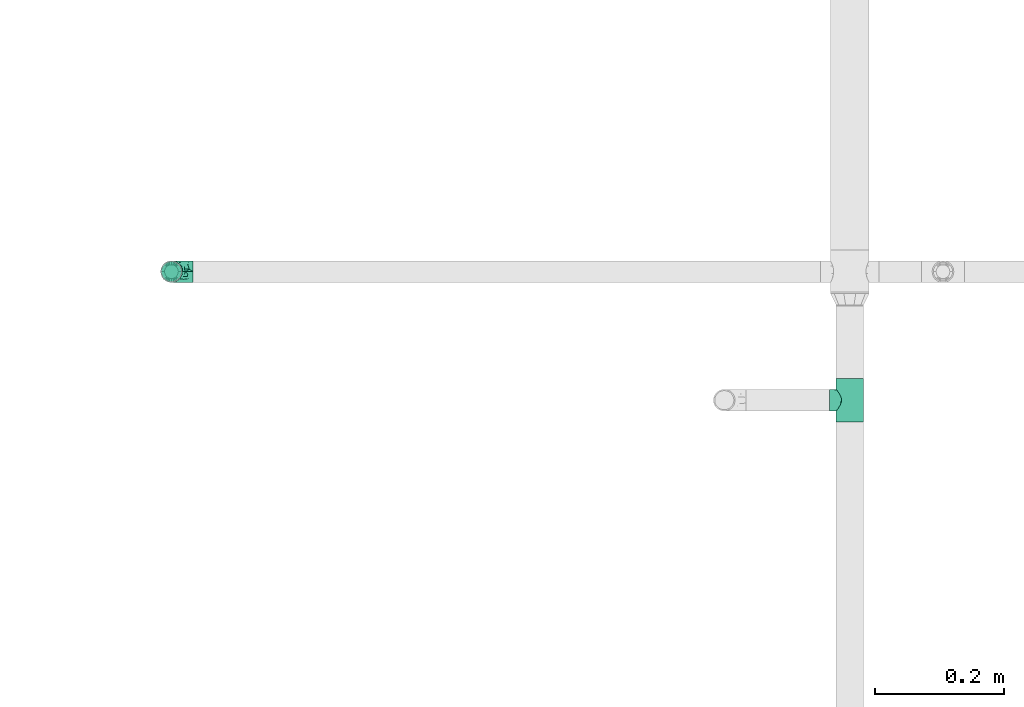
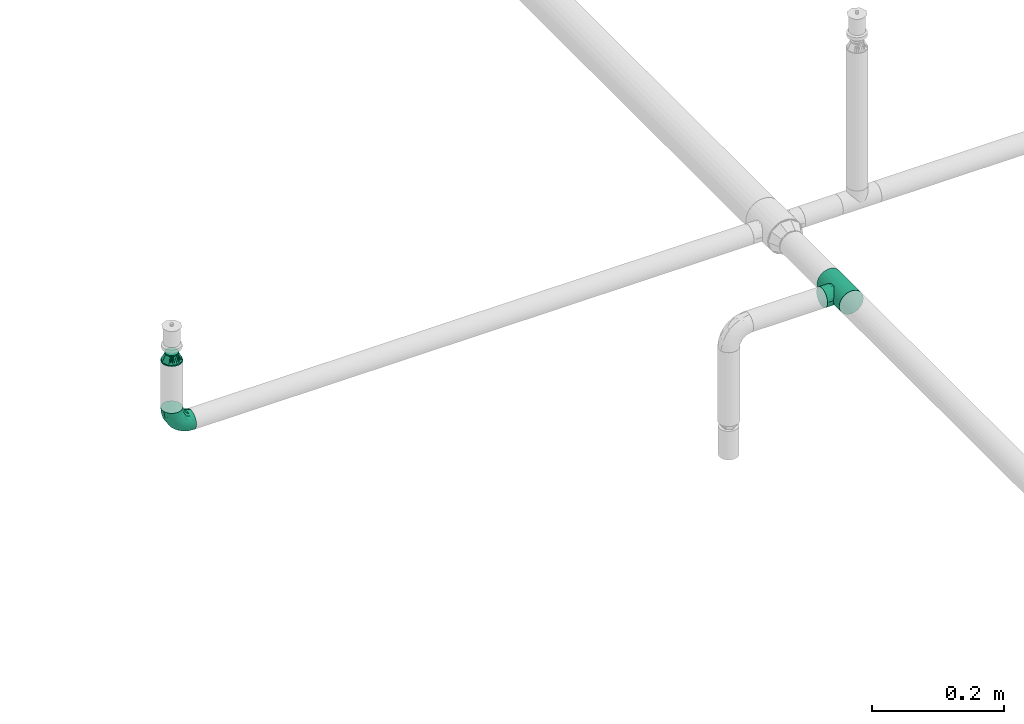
# One storey, part 89 of 157: 3 flow fittings.
"""IFC2X3 building model written with IfcOpenShell, lengths in millimetres."""

import ifcopenshell
import ifcopenshell.guid

model = None  # the IFC model being written
_history = None  # IfcOwnerHistory: only IFC2X3 demands one
_inside = {}  # id of a spatial element -> (the spatial element, [elements in it])
_under = {}  # id of a project, library or spatial element -> (it, [spatial elements below it])
_declared = {}  # id of a project -> (the project, [libraries it declares])
_typed = {}  # id of a type object -> (the type object, [elements of that type])
_made_of = {}  # id of a material, layer set ... -> (it, [elements and type objects made of it])


def new_model(schema):
    """Start an empty IFC model of exactly this schema.

    Asked for "IFC4X3", IfcOpenShell would pick the latest addendum, in which some entities
    have other attributes; the version numbers below select the first issue.
    IFC2X3 requires an IfcOwnerHistory on every rooted entity: one is made here for all.
    """
    global model, _history
    if schema == "IFC4X3":
        model = ifcopenshell.file(schema_version=(4, 3, 0, 0))
    else:
        model = ifcopenshell.file(schema=schema)
    _inside.clear()
    _under.clear()
    _declared.clear()
    _typed.clear()
    _made_of.clear()
    _history = None
    if model.schema == "IFC2X3":
        org = make("IfcOrganization", Name="unknown")
        user = make(
            "IfcPersonAndOrganization",
            ThePerson=make("IfcPerson", FamilyName="unknown"),
            TheOrganization=org,
        )
        app = make(
            "IfcApplication",
            ApplicationDeveloper=org,
            Version="unknown",
            ApplicationFullName="unknown",
            ApplicationIdentifier="unknown",
        )
        _history = make(
            "IfcOwnerHistory",
            OwningUser=user,
            OwningApplication=app,
            ChangeAction="ADDED",
            CreationDate=0,
        )
    return model


def make(cls, **values):
    """One entity of the class cls with the attributes given. An attribute that is None is left unset."""
    return model.create_entity(
        cls, **{name: value for name, value in values.items() if value is not None}
    )


def entity(cls, *values):
    """Any entity or typed value of the class cls, its attributes in the order of the schema. None: left unset."""
    e = model.create_entity(cls)
    for i, value in enumerate(values):
        if value is not None:
            e[i] = value
    return e


def rooted(cls, **values):
    """An entity with a GlobalId (a new one), such as an element, a storey or a relation."""
    return make(cls, GlobalId=ifcopenshell.guid.new(), OwnerHistory=_history, **values)


def si_unit(unit_type, name, prefix=None):
    """IfcSIUnit, for example si_unit("LENGTHUNIT", "METRE", prefix="MILLI")."""
    return make("IfcSIUnit", UnitType=unit_type, Prefix=prefix, Name=name)


def converted_unit(unit_type, name, factor, base, dimensions=None, offset=None):
    """IfcConversionBasedUnit, such as the inch: factor (a typed value) times the base unit."""
    return make(
        "IfcConversionBasedUnit"
        if offset is None
        else "IfcConversionBasedUnitWithOffset",
        ConversionOffset=offset,
        Dimensions=None
        if dimensions is None
        else entity("IfcDimensionalExponents", *dimensions),
        UnitType=unit_type,
        Name=name,
        ConversionFactor=make(
            "IfcMeasureWithUnit", ValueComponent=factor, UnitComponent=base
        ),
    )


def derived_unit(unit_type, elements):
    """IfcDerivedUnit: a product of units, each with its exponent."""
    return make(
        "IfcDerivedUnit",
        Elements=[
            make("IfcDerivedUnitElement", Unit=unit, Exponent=power)
            for unit, power in elements
        ],
        UnitType=unit_type,
    )


def assignment(units):
    """IfcUnitAssignment: the units of a project."""
    return None if units is None else make("IfcUnitAssignment", Units=units)


def point(xyz):
    """IfcCartesianPoint."""
    return None if xyz is None else make("IfcCartesianPoint", Coordinates=xyz)


def direction(xyz):
    """IfcDirection."""
    return None if xyz is None else make("IfcDirection", DirectionRatios=xyz)


def frame(location, z_axis=None, x_axis=None):
    """IfcAxis2Placement3D, a coordinate frame: its origin and axes. An axis left out is left unset."""
    return make(
        "IfcAxis2Placement3D",
        Location=point(location),
        Axis=direction(z_axis),
        RefDirection=direction(x_axis),
    )


def origin_with_axes():
    """The frame at (0, 0, 0) with the z axis (0, 0, 1) and the x axis (1, 0, 0) written out."""
    return frame((0.0, 0.0, 0.0), z_axis=(0.0, 0.0, 1.0), x_axis=(1.0, 0.0, 0.0))


def place(relative_to, where):
    """IfcLocalPlacement: puts the frame where relative to a parent placement (None: the world)."""
    return make(
        "IfcLocalPlacement", PlacementRelTo=relative_to, RelativePlacement=where
    )


def context(
    kind, dimensions, precision=None, world=None, true_north=None, identifier=None
):
    """IfcGeometricRepresentationContext, for example the 3D "Model" context."""
    return make(
        "IfcGeometricRepresentationContext",
        ContextIdentifier=identifier,
        ContextType=kind,
        CoordinateSpaceDimension=dimensions,
        Precision=precision,
        WorldCoordinateSystem=world,
        TrueNorth=true_north,
    )


def subcontext(parent, identifier, kind, view, scale=None):
    """IfcGeometricRepresentationSubContext, for example "Body" below "Model"."""
    return make(
        "IfcGeometricRepresentationSubContext",
        ContextIdentifier=identifier,
        ContextType=kind,
        ParentContext=parent,
        TargetScale=scale,
        TargetView=view,
    )


def project(units=None, contexts=None):
    """IfcProject with its units and contexts."""
    return rooted(
        "IfcProject",
        Name="project",
        RepresentationContexts=contexts,
        UnitsInContext=assignment(units),
    )


def spatial(cls, under=None, at=None, **own):
    """A site, building, storey or space (cls), placed at a placement, below another one or the project."""
    s = rooted(cls, ObjectPlacement=at, **own)
    if under is not None:
        _under.setdefault(under.id(), (under, []))[1].append(s)
    return s


def faces_of(points, faces, orient=None, outer=None):
    """IfcFace entities. A face is a list of loops; a loop is a list of indices into points, from 0.

    orient and outer hold one flag for each loop. By default every Orientation is true, the
    first loop of a face is its IfcFaceOuterBound and the others are IfcFaceBound.
    """
    made = []
    for i, loops in enumerate(faces):
        bounds = []
        for j, loop in enumerate(loops):
            is_outer = j == 0 if outer is None else outer[i][j]
            bounds.append(
                make(
                    "IfcFaceOuterBound" if is_outer else "IfcFaceBound",
                    Bound=make("IfcPolyLoop", Polygon=[points[k] for k in loop]),
                    Orientation=True if orient is None else orient[i][j],
                )
            )
        made.append(make("IfcFace", Bounds=bounds))
    return made


def open_shell(faces, orient=None, outer=None):
    """The faces of one IfcOpenShell. surface_model builds it on its shared points."""
    return ("IfcOpenShell", faces, orient, outer)


def surface_model(cls, points, shells):
    """IfcFaceBasedSurfaceModel or IfcShellBasedSurfaceModel (cls): surfaces that need not close."""
    shared = [point(p) for p in points]
    made = [make(c, CfsFaces=faces_of(shared, fs, o, b)) for c, fs, o, b in shells]
    if cls == "IfcFaceBasedSurfaceModel":
        return make(cls, FbsmFaces=made)
    return make(cls, SbsmBoundary=made)


def shape(context_of_items, identifier, shape_type, items):
    """IfcShapeRepresentation: the items that make up one representation, for example the "Body"."""
    return make(
        "IfcShapeRepresentation",
        ContextOfItems=context_of_items,
        RepresentationIdentifier=identifier,
        RepresentationType=shape_type,
        Items=items,
    )


def source(mapping_origin, context_of_items, identifier, shape_type, items):
    """IfcRepresentationMap: a shape defined once, which mapped items show again and again."""
    return make(
        "IfcRepresentationMap",
        MappingOrigin=mapping_origin,
        MappedRepresentation=shape(context_of_items, identifier, shape_type, items),
    )


def transform(
    local_origin,
    x_axis=None,
    y_axis=None,
    z_axis=None,
    scale=None,
    scale2=None,
    scale3=None,
    uniform=True,
):
    """IfcCartesianTransformationOperator3D, or its non-uniform kind. x_axis, y_axis, z_axis: its Axis1, 2, 3."""
    if uniform:
        return make(
            "IfcCartesianTransformationOperator3D",
            Axis1=direction(x_axis),
            Axis2=direction(y_axis),
            LocalOrigin=point(local_origin),
            Scale=scale,
            Axis3=direction(z_axis),
        )
    return make(
        "IfcCartesianTransformationOperator3DnonUniform",
        Axis1=direction(x_axis),
        Axis2=direction(y_axis),
        LocalOrigin=point(local_origin),
        Scale=scale,
        Axis3=direction(z_axis),
        Scale2=scale2,
        Scale3=scale3,
    )


def mapped(mapping_source, mapping_target):
    """IfcMappedItem: shows the shape of a source again, moved by a transform."""
    return make(
        "IfcMappedItem", MappingSource=mapping_source, MappingTarget=mapping_target
    )


def made_of(thing, what):
    """Note that an element or type object is made of a material, layer set ...; save() writes the relation."""
    if what is not None:
        _made_of.setdefault(what.id(), (what, []))[1].append(thing)
    return thing


def type_object(cls, material=None, **own):
    """A type object (cls), such as IfcWallType, which elements share."""
    return made_of(rooted(cls, **own), material)


def element(
    cls,
    number,
    at=None,
    inside=None,
    cuts=None,
    type_object=None,
    material=None,
    context=None,
    identifier="Body",
    shape_type=None,
    held_by="IfcProductDefinitionShape",
    body=None,
    shapes=None,
    **own,
):
    """One element of the class cls, such as IfcWall. Its Tag is "e" and its number.

    at: its placement. inside: the storey or other place that contains it. cuts: it is an
    opening in that element (IfcRelVoidsElement). A single representation is given by context,
    identifier, shape_type and body (its items); several are given by shapes. held_by: the class
    of the entity that holds the representations. save() writes the other relations.
    """
    e = rooted(cls, Tag="e%d" % number, ObjectPlacement=at, **own)
    if body is not None:
        shapes = [shape(context, identifier, shape_type, body)]
    if shapes is not None:
        e.Representation = make(held_by, Representations=shapes)
    if inside is not None:
        _inside.setdefault(inside.id(), (inside, []))[1].append(e)
    if cuts is not None:
        rooted(
            "IfcRelVoidsElement", RelatingBuildingElement=cuts, RelatedOpeningElement=e
        )
    if type_object is not None:
        _typed.setdefault(type_object.id(), (type_object, []))[1].append(e)
    return made_of(e, material)


def aggregate(whole, parts):
    """IfcRelAggregates: a whole, such as a stair, and the parts it consists of."""
    return rooted("IfcRelAggregates", RelatingObject=whole, RelatedObjects=parts)


def save(model, path):
    """Write the relations noted so far, then the file.

    IfcRelAggregates (storeys below a building ...), IfcRelContainedInSpatialStructure (elements
    in a storey), IfcRelDefinesByType, IfcRelAssociatesMaterial and IfcRelDeclares: one each for
    every whole, place, type object, material and project.
    """
    for whole, parts in _under.values():
        aggregate(whole, parts)
    for where, things in _inside.values():
        rooted(
            "IfcRelContainedInSpatialStructure",
            RelatedElements=things,
            RelatingStructure=where,
        )
    for kind, things in _typed.values():
        rooted("IfcRelDefinesByType", RelatedObjects=things, RelatingType=kind)
    for what, things in _made_of.values():
        rooted("IfcRelAssociatesMaterial", RelatedObjects=things, RelatingMaterial=what)
    for by, libraries in _declared.values():
        rooted("IfcRelDeclares", RelatingContext=by, RelatedDefinitions=libraries)
    model.write(path)


model = new_model("IFC2X3")

# Units and contexts
model_context = context("Model", 3, precision=0.01, world=frame((0.0, 4.29681676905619e-09, 0.0)), true_north=direction((4.01073788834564e-13, 1.0)))
plan_context = context("Plan", 3, precision=0.01, world=frame((0.0, 4.29681676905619e-09, 0.0)), true_north=direction((4.01073788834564e-13, 1.0)))
body_context = subcontext(model_context, "Body", "Model", "MODEL_VIEW")
ifc_project = project(units=[converted_unit("PLANEANGLEUNIT", "DEGREE", entity("IfcPositiveLengthMeasure", 0.0174532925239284), si_unit("PLANEANGLEUNIT", "RADIAN"), dimensions=[0, 0, 0, 0, 0, 0, 0]), si_unit("AREAUNIT", "SQUARE_METRE"), si_unit("LENGTHUNIT", "METRE", prefix="MILLI"), si_unit("MASSUNIT", "GRAM", prefix="KILO"), si_unit("POWERUNIT", "WATT"), si_unit("PRESSUREUNIT", "PASCAL"), si_unit("FORCEUNIT", "NEWTON", prefix="KILO"), si_unit("ELECTRICCURRENTUNIT", "AMPERE"), si_unit("THERMODYNAMICTEMPERATUREUNIT", "DEGREE_CELSIUS"), si_unit("TIMEUNIT", "SECOND"), si_unit("VOLUMEUNIT", "CUBIC_METRE"), derived_unit("LINEARVELOCITYUNIT", [(si_unit("LENGTHUNIT", "METRE"), 1), (si_unit("TIMEUNIT", "SECOND"), -1)]), derived_unit("VOLUMETRICFLOWRATEUNIT", [(si_unit("VOLUMEUNIT", "CUBIC_METRE"), 1), (si_unit("TIMEUNIT", "SECOND"), -1)]), derived_unit("THERMALTRANSMITTANCEUNIT", [(si_unit("POWERUNIT", "WATT"), 1), (si_unit("THERMODYNAMICTEMPERATUREUNIT", "KELVIN"), -1), (si_unit("AREAUNIT", "SQUARE_METRE"), -1)])], contexts=[model_context, plan_context])

# Site, building, storey
site_placement = place(None, frame((0.0, -4.29681676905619e-09, 0.0), z_axis=(0.0, 0.0, 1.0), x_axis=(1.0, 0.0, 0.0)))
site = spatial("IfcSite", under=ifc_project, at=site_placement, CompositionType="ELEMENT")
building_placement = place(site_placement, frame((0.0, 4.29681676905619e-09, 0.0), z_axis=(0.0, 0.0, 1.0), x_axis=(1.0, 0.0, 0.0)))
building = spatial("IfcBuilding", under=site, at=building_placement, Name="mc-building", CompositionType="ELEMENT")
storey_placement = place(building_placement, frame((0.0, 0.0, 204000.0), z_axis=(0.0, 0.0, 1.0), x_axis=(1.0, 0.0, 0.0)))
storey = spatial("IfcBuildingStorey", under=building, at=storey_placement, Name="Nivå D", CompositionType="ELEMENT", Elevation=204000.0)

# Flow fittings
pipe_fitting_type_1 = type_object("IfcPipeFittingType", Name="magi_pipe_fe_elbow_short_001", PredefinedType="BEND")
shared_shape_1 = source(origin_with_axes(), body_context, "Body", "SurfaceModel", [
    surface_model("IfcShellBasedSurfaceModel", [(-33.8, 8.45, -14.63583), (-33.8, 4.37404, -16.32415), (-33.8, 11.9501, -11.9501), (-33.8, -11.9501, -11.9501), (-33.8, -14.63583, -8.45), (-33.8, -8.45, -14.63583), (-33.8, 0.0, -16.9), (-33.8, -4.37404, -16.32415), (-33.8, -4.37404, 16.32415), (-33.8, 0.0, 16.9), (-33.8, -8.45, 14.63583), (-33.8, 16.32415, -4.37404), (-33.8, 14.63583, -8.45), (-33.8, -16.32415, -4.37404), (-33.8, -16.9, 0.0), (-33.8, -16.32415, 4.37404), (-33.8, 11.9501, 11.9501), (-33.8, 14.63583, 8.45), (-33.8, 16.32415, 4.37404), (-33.8, 4.37404, 16.32415), (-33.8, 8.45, 14.63583), (-33.8, -14.63583, 8.45), (-33.8, -11.9501, 11.9501), (-33.8, 16.9, 0.0), (-11.9501, 33.8, -11.9501), (0.0, 33.8, -16.9), (-4.37404, 33.8, -16.32415), (-8.45, 33.8, -14.63583), (-14.63583, 33.8, -8.45), (-16.32415, 33.8, -4.37404), (14.63583, 33.8, -8.45), (8.45, 33.8, 14.63583), (16.32415, 33.8, -4.37404), (8.45, 33.8, -14.63583), (11.9501, 33.8, -11.9501), (4.37404, 33.8, -16.32415), (16.32415, 33.8, 4.37404), (16.9, 33.8, 0.0), (-11.9501, 33.8, 11.9501), (-16.32415, 33.8, 4.37404), (-14.63583, 33.8, 8.45), (-8.45, 33.8, 14.63583), (-4.37404, 33.8, 16.32415), (11.9501, 33.8, 11.9501), (14.63583, 33.8, 8.45), (0.0, 33.8, 16.9), (4.37404, 33.8, 16.32415), (-16.9, 33.8, 0.0), (-24.79389, -13.12945, 9.48721), (-22.19287, -9.75018, 12.59315), (-24.09897, -14.97035, 0.0), (-14.93934, -10.76256, 8.5297), (-22.46095, -14.75051, 5.27077), (14.75051, 22.46094, 5.27077), (11.9251, 13.23888, 4.33236), (13.04069, 14.39795, 0.0), (7.71387, 13.68847, 11.55891), (9.75018, 22.19287, 12.59315), (4.10169, 13.0571, 14.04018), (-24.84007, -6.39063, 15.2048), (-25.81779, -2.23879, 16.61097), (-23.66549, 2.59054, 16.87119), (-26.50418, 14.06512, 11.08152), (-24.21253, 17.66365, 7.72657), (-29.58514, 15.86957, 7.00283), (-6.17382, -7.5455, 0.0), (-13.23888, -11.9251, 4.33236), (-14.39795, -13.04069, 0.0), (-17.81434, 18.87373, 11.97104), (-6.30846, 29.15138, 15.82987), (-2.31622, 25.28002, 16.85849), (-29.23923, 10.23435, 13.77053), (-1.45439, -2.85688, 7.61475), (-0.28326, 0.34872, 10.09509), (-5.74484, -4.04709, 10.4122), (-4.41137, 11.31918, 16.59407), (-8.39727, 3.10034, 15.7812), (-1.72649, 9.1306, 15.53089), (-17.39909, 24.75344, 7.64977), (-26.19233, 20.0512, 0.0), (-28.14518, 17.29657, 4.25857), (-26.05147, 6.6281, 15.96447), (-5.87354, 16.61944, 16.86968), (-12.51807, 12.51807, 16.48937), (-10.06312, 7.38516, 16.81295), (-3.01882, 3.01882, 13.81718), (-13.0571, -4.10169, 14.04018), (-16.82553, -0.15166, 16.38038), (10.76256, 14.93934, 8.5297), (13.12945, 24.79389, 9.48721), (6.39063, 24.84007, 15.2048), (2.23879, 25.81779, 16.61097), (-13.68847, -7.71387, 11.55891), (14.97035, 24.09897, 0.0), (-7.30894, 22.89991, 16.09489), (-10.67958, 26.17414, 14.008), (-12.78295, 18.26924, 15.06066), (-13.88562, 22.45231, 12.93244), (-18.04944, 15.16501, 14.04434), (-23.11658, 20.08178, 4.02986), (-21.84989, 21.84989, 0.0), (-18.55817, 25.48277, 3.93065), (-13.95142, 26.94732, 11.03289), (-18.57098, 7.23906, 16.59756), (-16.58335, 4.14122, 16.89279), (-17.96666, 11.46709, 15.63151), (-9.84453, 17.54304, 16.18938), (0.15166, 16.82553, 16.38038), (-23.27207, 11.47201, 14.23154), (3.84842, 5.86994, 10.70473), (-8.0212, -7.54413, 7.93275), (1.00345, -2.19508, 4.57414), (5.13203, 3.01004, 5.90201), (5.24161, 1.7543, 2.53265), (8.70457, 7.04947, 3.99182), (-20.0512, 26.19233, 0.0), (8.4852, 8.76699, 7.09296), (-4.55488, -6.72064, 4.90681), (2.05031, -2.05031, 0.0), (7.5455, 6.17382, 0.0), (-26.75399, 2.1369, -16.845), (-14.61995, 24.73803, -11.27736), (-28.45274, -13.45335, -9.81895), (-26.00469, 6.63555, -15.96645), (-23.06726, 20.04573, -4.26202), (-13.80647, -4.26506, -14.17873), (-14.67501, -0.21081, -16.07388), (-6.7902, -0.2828, -13.8478), (-24.53586, 11.08096, -14.13417), (-26.72048, 14.00837, -11.05776), (10.0967, 24.44989, -12.75976), (5.83237, 21.40218, -15.03047), (6.66249, 28.54238, -15.38093), (-20.38182, 15.48705, -12.74596), (12.53268, 21.23441, -9.15363), (12.54494, 15.67504, -5.54878), (9.7522, 12.89279, -8.66343), (-15.65186, 19.64213, -13.01327), (-12.03528, 20.66498, -14.67665), (-15.61907, 15.61906, -14.83879), (-25.56551, -15.26206, 0.0), (-24.65452, -15.12934, -5.50955), (13.45335, 28.45274, -9.81895), (15.12934, 24.65452, -5.50955), (-7.35442, -8.31014, -5.65563), (-15.67504, -12.54494, -5.54878), (-24.44989, -10.0967, -12.75976), (0.16522, 0.41303, -9.71728), (-5.70658, -5.33066, -8.89288), (-5.13869, -2.37198, -11.53565), (-21.23441, -12.53268, -9.15363), (0.71146, 7.93863, -14.09382), (0.21081, 14.67501, -16.07388), (3.49291, 14.42772, -14.76381), (-24.89911, -2.13088, -16.591), (-28.54238, -6.66249, -15.38093), (-18.44386, -7.71663, -13.26957), (2.13088, 24.89911, -16.591), (-28.64342, 17.44413, -2.89318), (1.70017, -1.28722, -5.09504), (-16.57067, 26.81947, -7.36596), (-17.69055, 27.4263, -3.76405), (-12.89279, -9.7522, -8.66343), (-5.96611, 5.96611, -15.95814), (-20.53709, 20.09345, -8.28985), (-2.1369, 26.75399, -16.845), (-6.89872, 24.58781, -16.02578), (-10.60739, 26.53157, -13.98044), (-21.40218, -5.83237, -15.03047), (2.93192, 5.89627, -11.55917), (6.89393, 12.61842, -11.82233), (5.58056, 5.95325, -8.79455), (-3.99512, 18.61798, -16.89635), (8.31014, 7.35442, -5.65563), (-9.1383, 9.86148, -16.89041), (-9.99983, 16.02119, -16.39699), (-16.68576, 9.78031, -16.34199), (-27.01915, 16.61158, -7.12979), (15.26206, 25.56551, 0.0), (-18.61798, 3.99512, -16.89635), (-19.37495, 27.82495, 0.0), (-12.61842, -6.89393, -11.82233), (-18.84705, 19.14018, -10.96545)], [open_shell([[[0, 1, 2]], [[3, 4, 5]], [[6, 7, 5]], [[8, 9, 10]], [[1, 6, 2]], [[11, 12, 2]], [[4, 2, 6]], [[2, 13, 10]], [[5, 4, 6]], [[2, 4, 13]], [[14, 15, 13]], [[11, 2, 16]], [[11, 17, 18]], [[11, 16, 17]], [[19, 20, 16]], [[16, 2, 10]], [[19, 16, 10]], [[21, 22, 15]], [[22, 13, 15]], [[22, 10, 13]], [[10, 9, 19]], [[11, 18, 23]], [[24, 25, 26]], [[24, 26, 27]], [[24, 28, 29]], [[25, 24, 30]], [[31, 32, 24]], [[33, 30, 34]], [[33, 35, 25]], [[25, 30, 33]], [[32, 30, 24]], [[32, 36, 37]], [[38, 24, 29]], [[39, 40, 29]], [[40, 38, 29]], [[38, 41, 42]], [[38, 31, 24]], [[31, 38, 42]], [[36, 43, 44]], [[36, 32, 43]], [[31, 45, 46]], [[32, 31, 43]], [[42, 45, 31]], [[39, 29, 47]], [[22, 48, 49]], [[15, 14, 50]], [[51, 48, 52]], [[53, 54, 55]], [[48, 22, 21]], [[15, 52, 21]], [[56, 57, 58]], [[49, 10, 22]], [[49, 59, 10]], [[9, 60, 61]], [[62, 63, 64]], [[65, 66, 67]], [[57, 43, 31]], [[62, 68, 63]], [[42, 69, 70]], [[20, 71, 16]], [[8, 60, 9]], [[72, 73, 74]], [[75, 76, 77]], [[16, 62, 17]], [[40, 39, 78]], [[79, 23, 80]], [[64, 18, 17]], [[9, 61, 19]], [[19, 81, 20]], [[82, 83, 84]], [[74, 85, 86]], [[59, 86, 87]], [[88, 89, 57]], [[90, 31, 46]], [[44, 53, 36]], [[46, 45, 91]], [[54, 53, 88]], [[44, 89, 53]], [[92, 86, 49]], [[89, 44, 43]], [[10, 59, 8]], [[53, 55, 93]], [[93, 36, 53]], [[66, 52, 67]], [[94, 82, 70]], [[95, 96, 94]], [[97, 98, 96]], [[79, 99, 100]], [[41, 38, 95]], [[101, 100, 99]], [[68, 78, 63]], [[42, 41, 69]], [[23, 18, 80]], [[95, 94, 69]], [[78, 101, 99]], [[38, 102, 95]], [[70, 45, 42]], [[97, 95, 102]], [[15, 50, 52]], [[90, 57, 31]], [[57, 90, 58]], [[81, 19, 61]], [[103, 104, 84]], [[105, 81, 103]], [[38, 40, 102]], [[106, 96, 83]], [[94, 106, 82]], [[91, 70, 107]], [[71, 62, 16]], [[62, 108, 98]], [[86, 59, 49]], [[67, 52, 50]], [[60, 59, 87]], [[92, 49, 51]], [[86, 85, 76]], [[91, 90, 46]], [[37, 36, 93]], [[107, 77, 58]], [[107, 58, 90]], [[58, 85, 109]], [[110, 74, 92]], [[72, 74, 110]], [[66, 51, 52]], [[72, 111, 112]], [[113, 114, 112]], [[56, 88, 57]], [[52, 48, 21]], [[49, 48, 51]], [[57, 89, 43]], [[53, 89, 88]], [[103, 81, 61]], [[71, 81, 108]], [[18, 64, 80]], [[63, 78, 99]], [[47, 115, 101]], [[101, 115, 100]], [[40, 78, 102]], [[68, 102, 78]], [[97, 96, 95]], [[105, 98, 108]], [[103, 84, 83]], [[107, 70, 82]], [[76, 84, 87]], [[82, 84, 75]], [[70, 91, 45]], [[90, 91, 107]], [[59, 60, 8]], [[61, 60, 87]], [[73, 85, 74]], [[109, 112, 116]], [[103, 61, 104]], [[105, 103, 83]], [[96, 105, 83]], [[81, 105, 108]], [[96, 98, 105]], [[62, 98, 68]], [[61, 87, 104]], [[87, 84, 104]], [[86, 76, 87]], [[77, 76, 85]], [[58, 77, 85]], [[75, 77, 107]], [[82, 75, 107]], [[76, 75, 84]], [[81, 71, 20]], [[62, 71, 108]], [[95, 69, 41]], [[70, 69, 94]], [[62, 64, 17]], [[80, 63, 99]], [[63, 80, 64]], [[80, 99, 79]], [[66, 65, 117]], [[110, 66, 117]], [[112, 114, 116]], [[118, 117, 65]], [[110, 92, 51]], [[112, 111, 113]], [[119, 55, 54]], [[74, 86, 92]], [[58, 109, 56]], [[116, 56, 109]], [[66, 110, 51]], [[72, 110, 117]], [[111, 72, 117]], [[73, 112, 109]], [[117, 118, 111]], [[113, 111, 118]], [[118, 119, 113]], [[114, 119, 54]], [[119, 114, 113]], [[116, 54, 88]], [[54, 116, 114]], [[116, 88, 56]], [[112, 73, 72]], [[85, 73, 109]], [[78, 39, 101]], [[47, 101, 39]], [[102, 68, 97]], [[97, 68, 98]], [[82, 106, 83]], [[94, 96, 106]], [[1, 120, 6]], [[28, 24, 121]], [[3, 122, 4]], [[0, 123, 1]], [[100, 124, 79]], [[125, 126, 127]], [[128, 2, 129]], [[130, 131, 132]], [[128, 129, 133]], [[134, 135, 136]], [[137, 138, 139]], [[128, 0, 2]], [[67, 140, 141]], [[134, 142, 143]], [[141, 13, 4]], [[144, 65, 145]], [[146, 3, 5]], [[147, 148, 149]], [[145, 141, 150]], [[151, 152, 153]], [[154, 7, 6]], [[5, 155, 146]], [[150, 146, 156]], [[155, 5, 7]], [[143, 135, 134]], [[35, 157, 25]], [[23, 79, 158]], [[148, 159, 144]], [[160, 161, 29]], [[145, 162, 144]], [[163, 152, 151]], [[29, 28, 160]], [[121, 164, 160]], [[33, 34, 130]], [[25, 165, 26]], [[26, 165, 166]], [[142, 34, 30]], [[24, 27, 167]], [[124, 161, 164]], [[157, 35, 132]], [[155, 154, 168]], [[123, 0, 128]], [[169, 170, 171]], [[172, 157, 152]], [[26, 166, 27]], [[132, 35, 33]], [[142, 130, 34]], [[168, 154, 126]], [[136, 135, 173]], [[133, 137, 139]], [[2, 12, 129]], [[170, 131, 130]], [[30, 32, 143]], [[172, 174, 175]], [[176, 123, 128]], [[158, 177, 11]], [[135, 55, 119]], [[167, 27, 166]], [[175, 166, 172]], [[137, 167, 138]], [[122, 141, 4]], [[140, 14, 13]], [[32, 37, 178]], [[170, 130, 134]], [[152, 157, 131]], [[165, 157, 172]], [[153, 170, 151]], [[152, 163, 174]], [[168, 125, 156]], [[122, 146, 150]], [[120, 154, 6]], [[179, 174, 126]], [[179, 126, 154]], [[126, 163, 127]], [[162, 145, 150]], [[140, 13, 141]], [[32, 178, 143]], [[55, 143, 178]], [[177, 129, 12]], [[128, 133, 139]], [[176, 128, 139]], [[120, 123, 179]], [[121, 160, 28]], [[161, 100, 180]], [[166, 175, 138]], [[121, 24, 167]], [[161, 47, 29]], [[79, 124, 158]], [[124, 164, 177]], [[161, 124, 100]], [[136, 171, 170]], [[127, 163, 151]], [[147, 171, 159]], [[148, 144, 162]], [[127, 151, 169]], [[127, 181, 125]], [[129, 177, 164]], [[12, 11, 177]], [[159, 65, 144]], [[67, 141, 145]], [[143, 55, 135]], [[135, 119, 173]], [[123, 120, 1]], [[154, 120, 179]], [[157, 165, 25]], [[166, 165, 172]], [[172, 152, 174]], [[176, 139, 175]], [[126, 174, 163]], [[176, 174, 179]], [[174, 176, 175]], [[123, 176, 179]], [[150, 181, 162]], [[127, 149, 181]], [[181, 148, 162]], [[159, 148, 147]], [[171, 136, 173]], [[170, 134, 136]], [[159, 171, 173]], [[171, 147, 169]], [[169, 147, 149]], [[151, 170, 169]], [[164, 182, 129]], [[182, 121, 137]], [[181, 149, 148]], [[169, 149, 127]], [[182, 137, 133]], [[167, 137, 121]], [[166, 138, 167]], [[175, 139, 138]], [[129, 182, 133]], [[121, 182, 164]], [[161, 160, 164]], [[47, 161, 180]], [[177, 158, 124]], [[23, 158, 11]], [[130, 132, 33]], [[157, 132, 131]], [[143, 142, 30]], [[130, 142, 134]], [[154, 155, 7]], [[146, 155, 168]], [[146, 122, 3]], [[141, 122, 150]], [[152, 131, 153]], [[159, 119, 118]], [[67, 145, 65]], [[170, 153, 131]], [[119, 159, 173]], [[159, 118, 65]], [[156, 125, 181]], [[126, 125, 168]], [[150, 156, 181]], [[168, 156, 146]]])]),
])
flow_fitting_1_placement = place(storey_placement, frame((523639.775, 410800.0, 2880.0), z_axis=(0.0, -1.0, 0.0), x_axis=(0.0, 0.0, -1.0)))
element("IfcFlowFitting", 1, at=flow_fitting_1_placement, inside=storey, type_object=pipe_fitting_type_1, Name="magi_pipe_fe_elbow_short_001", context=body_context, shape_type="MappedRepresentation", body=[
    mapped(shared_shape_1, transform((0.0, 0.0, 0.0), scale=1.0)),
])
pipe_fitting_type_2 = type_object("IfcPipeFittingType", Name="magi_pipe_fe_tee_centric_90_NOR", PredefinedType="JUNCTION")
shared_shape_2 = source(origin_with_axes(), body_context, "Body", "SurfaceModel", [
    surface_model("IfcShellBasedSurfaceModel", [(-33.8, 0.0, -21.2), (-33.8, -5.48696, -20.47763), (-33.8, 5.48696, -20.47763), (-33.8, 10.6, -18.35974), (-33.8, 14.99066, -14.99066), (-33.8, -20.47763, 5.48696), (-33.8, 18.35974, -10.6), (-33.8, 10.6, 18.35974), (-33.8, -14.99066, -14.99066), (-33.8, -18.35974, -10.6), (-33.8, -10.6, -18.35974), (-33.8, -20.47763, -5.48696), (-33.8, -21.2, 0.0), (-33.8, 18.35974, 10.6), (-33.8, 20.47763, -5.48696), (-33.8, 20.47763, 5.48696), (-33.8, 21.2, 0.0), (-33.8, 14.99066, 14.99066), (-33.8, 5.48696, 20.47763), (-33.8, 0.0, 21.2), (-33.8, -18.35974, 10.6), (-33.8, -14.99066, 14.99066), (-33.8, -10.6, 18.35974), (-33.8, -5.48696, 20.47763), (33.8, 5.48696, -20.47763), (33.8, -5.48696, -20.47763), (33.8, 0.0, -21.2), (33.8, 14.99066, -14.99066), (33.8, 10.6, -18.35974), (33.8, 18.35974, -10.6), (33.8, 20.47763, -5.48696), (33.8, -21.2, 0.0), (33.8, -10.6, -18.35974), (33.8, -18.35974, -10.6), (33.8, -14.99066, -14.99066), (33.8, -20.47763, -5.48696), (33.8, -20.47763, 5.48696), (33.8, 21.2, 0.0), (33.8, 20.47763, 5.48696), (33.8, 18.35974, 10.6), (33.8, 10.6, 18.35974), (33.8, 14.99066, 14.99066), (33.8, 0.0, 21.2), (33.8, 5.48696, 20.47763), (33.8, -14.99066, 14.99066), (33.8, -18.35974, 10.6), (33.8, -10.6, 18.35974), (33.8, -5.48696, 20.47763), (16.9, -21.2, 0.0), (15.78624, -20.32327, 6.03364), (12.81343, -18.11115, 11.01935), (8.52479, -15.37862, 14.59239), (3.07939, -13.16482, 16.61708), (-16.9, -21.2, 0.0), (-15.78686, -20.32375, 6.032), (-8.52604, -15.37932, 14.59166), (-3.0848, -13.16609, 16.61608), (-12.81602, -18.11299, 11.01634), (3.07939, -13.16482, -16.61708), (12.81343, -18.11115, -11.01935), (8.52479, -15.37862, -14.59239), (15.78624, -20.32327, -6.03364), (-3.0848, -13.16609, -16.61608), (-8.52604, -15.37932, -14.59166), (-12.81602, -18.11299, -11.01634), (-15.78686, -20.32375, -6.032), (4.37404, -31.8, -16.32415), (-16.9, -31.8, 0.0), (0.0, -31.8, -16.9), (14.63583, -31.8, -8.45), (8.45, -31.8, -14.63583), (16.32415, -31.8, -4.37404), (11.9501, -31.8, -11.9501), (-11.9501, -31.8, -11.9501), (-8.45, -31.8, -14.63583), (-4.37404, -31.8, -16.32415), (-14.63583, -31.8, -8.45), (-16.32415, -31.8, -4.37404), (16.9, -31.8, 0.0), (8.45, -31.8, 14.63583), (16.32415, -31.8, 4.37404), (14.63583, -31.8, 8.45), (-8.45, -31.8, 14.63583), (11.9501, -31.8, 11.9501), (4.37404, -31.8, 16.32415), (-16.32415, -31.8, 4.37404), (-11.9501, -31.8, 11.9501), (-14.63583, -31.8, 8.45), (0.0, -31.8, 16.9), (-4.37404, -31.8, 16.32415), (-16.34343, -20.76188, 3.016), (16.34312, -20.76163, 3.01682), (-0.00271, -13.16546, 16.61658), (16.34312, -20.76163, -3.01682), (-0.00271, -13.16546, -16.61658), (-16.34343, -20.76188, -3.016)], [open_shell([[[0, 1, 2]], [[3, 2, 4]], [[5, 2, 1]], [[4, 2, 6]], [[6, 2, 7]], [[8, 9, 10]], [[1, 10, 9]], [[9, 11, 1]], [[12, 1, 11]], [[5, 1, 12]], [[13, 14, 6]], [[13, 15, 16]], [[6, 7, 13]], [[5, 7, 2]], [[17, 13, 7]], [[18, 7, 19]], [[20, 21, 5]], [[22, 5, 21]], [[23, 19, 22]], [[7, 5, 22]], [[22, 19, 7]], [[16, 14, 13]], [[24, 25, 26]], [[27, 24, 28]], [[29, 30, 24]], [[29, 24, 27]], [[31, 24, 30]], [[32, 33, 34]], [[33, 32, 25]], [[33, 31, 35]], [[31, 33, 25]], [[25, 24, 31]], [[30, 36, 31]], [[37, 38, 39]], [[37, 39, 40]], [[37, 40, 36]], [[40, 39, 41]], [[42, 40, 43]], [[36, 44, 45]], [[44, 36, 46]], [[46, 42, 47]], [[46, 36, 40]], [[40, 42, 46]], [[37, 36, 30]], [[31, 36, 48]], [[49, 48, 36]], [[36, 45, 49]], [[45, 44, 50]], [[51, 50, 44]], [[52, 51, 44]], [[44, 46, 52]], [[45, 50, 49]], [[53, 54, 5]], [[5, 12, 53]], [[54, 20, 5]], [[55, 56, 21]], [[20, 57, 21]], [[57, 20, 54]], [[21, 57, 55]], [[56, 22, 21]], [[52, 22, 56]], [[19, 47, 42]], [[23, 46, 47]], [[18, 42, 43]], [[39, 38, 15]], [[17, 40, 41]], [[13, 41, 39]], [[43, 40, 7]], [[16, 38, 37]], [[22, 46, 23]], [[23, 47, 19]], [[18, 19, 42]], [[43, 7, 18]], [[7, 40, 17]], [[13, 17, 41]], [[15, 13, 39]], [[38, 16, 15]], [[46, 22, 52]], [[6, 30, 29]], [[14, 37, 30]], [[4, 29, 27]], [[26, 25, 1]], [[2, 28, 24]], [[0, 24, 26]], [[27, 28, 3]], [[10, 25, 32]], [[16, 37, 14]], [[14, 30, 6]], [[4, 6, 29]], [[27, 3, 4]], [[3, 28, 2]], [[0, 2, 24]], [[1, 0, 26]], [[25, 10, 1]], [[32, 58, 10]], [[34, 59, 60]], [[59, 34, 33]], [[60, 58, 34]], [[34, 58, 32]], [[35, 31, 48]], [[35, 61, 33]], [[61, 35, 48]], [[33, 61, 59]], [[62, 63, 8]], [[8, 64, 9]], [[64, 8, 63]], [[62, 8, 10]], [[65, 53, 11]], [[65, 11, 9]], [[11, 53, 12]], [[65, 9, 64]], [[58, 62, 10]], [[66, 67, 68]], [[69, 66, 70]], [[69, 71, 66]], [[69, 70, 72]], [[67, 66, 71]], [[68, 73, 74]], [[74, 75, 68]], [[76, 67, 77]], [[73, 68, 76]], [[67, 76, 68]], [[71, 78, 67]], [[79, 78, 80]], [[79, 80, 81]], [[82, 67, 79]], [[79, 81, 83]], [[82, 79, 84]], [[85, 86, 87]], [[86, 85, 82]], [[82, 88, 89]], [[85, 67, 82]], [[84, 88, 82]], [[79, 67, 78]], [[85, 90, 67]], [[57, 87, 86]], [[85, 87, 54]], [[86, 82, 55]], [[85, 54, 90]], [[90, 53, 67]], [[54, 87, 57]], [[91, 49, 80]], [[55, 89, 56]], [[55, 57, 86]], [[88, 52, 92]], [[55, 82, 89]], [[52, 88, 84]], [[79, 51, 84]], [[50, 83, 81]], [[83, 51, 79]], [[81, 80, 49]], [[83, 50, 51]], [[51, 52, 84]], [[78, 91, 80]], [[49, 50, 81]], [[91, 78, 48]], [[88, 56, 89]], [[92, 56, 88]], [[71, 93, 78]], [[59, 69, 72]], [[71, 69, 61]], [[72, 70, 60]], [[93, 48, 78]], [[61, 69, 59]], [[60, 66, 58]], [[60, 59, 72]], [[68, 62, 94]], [[60, 70, 66]], [[95, 67, 53]], [[95, 65, 77]], [[71, 61, 93]], [[75, 62, 68]], [[65, 76, 77]], [[73, 76, 64]], [[68, 58, 66]], [[75, 63, 62]], [[63, 75, 74]], [[74, 73, 63]], [[63, 73, 64]], [[64, 76, 65]], [[67, 95, 77]], [[94, 58, 68]]])]),
])
flow_fitting_2_placement = place(storey_placement, frame((524695.35, 410599.99999, 2880.0), z_axis=(0.0, 0.0, -1.0), x_axis=(0.0, 1.0, 0.0)))
element("IfcFlowFitting", 2, at=flow_fitting_2_placement, inside=storey, type_object=pipe_fitting_type_2, Name="magi_pipe_fe_tee_centric_90_NOR", context=body_context, shape_type="MappedRepresentation", body=[
    mapped(shared_shape_2, transform((0.0, 0.0, 0.0), scale=1.0)),
])
pipe_fitting_type_3 = type_object("IfcPipeFittingType", Name="magi_pipe_fe_reducer_centric_short_NOR", PredefinedType="TRANSITION")
shared_shape_3 = source(origin_with_axes(), body_context, "Body", "SurfaceModel", [
    surface_model("IfcShellBasedSurfaceModel", [(-2.0, -7.56604, -7.56604), (-2.0, -10.33541, -2.76936), (-2.0, -5.35, -9.26647), (-2.0, 5.35, -9.26647), (-2.0, 10.33541, -2.76936), (-2.0, 7.56604, -7.56604), (12.4, 11.9501, 11.9501), (12.4, 0.0, 16.9), (12.4, 11.9501, -11.9501), (12.4, 16.9, 0.0), (0.0, -10.7, 0.0), (0.0, -5.35, 9.26647), (0.0, -5.35, -9.26647), (0.0, 10.7, 0.0), (12.4, 15.66253, -2.98753), (12.4, 8.96258, -13.18758), (0.0, 6.6875, -6.94985), (12.4, -15.66253, -2.98753), (12.4, -16.9, 0.0), (12.4, 5.97505, -14.42505), (0.0, 5.35, -9.26647), (12.4, 14.42505, -5.97505), (0.0, 8.025, -4.63324), (0.0, 9.3625, -2.31662), (0.0, -9.3625, -2.31662), (0.0, -8.025, -4.63324), (12.4, -14.42505, -5.97505), (12.4, 13.18758, -8.96258), (12.4, -13.18758, -8.96258), (12.4, -11.9501, -11.9501), (0.0, -6.6875, -6.94985), (12.4, -8.96258, -13.18758), (12.4, -5.97505, -14.42505), (12.4, -15.66253, 2.98753), (12.4, -8.96258, 13.18758), (0.0, -6.6875, 6.94985), (12.4, -11.9501, 11.9501), (12.4, 15.66253, 2.98753), (12.4, -5.97505, 14.42505), (12.4, -14.42505, 5.97505), (0.0, -8.025, 4.63324), (0.0, -9.3625, 2.31662), (0.0, 9.3625, 2.31662), (0.0, 8.025, 4.63324), (12.4, 14.42505, 5.97505), (12.4, -13.18758, 8.96258), (12.4, 13.18758, 8.96258), (0.0, 6.6875, 6.94985), (12.4, 8.96258, 13.18758), (0.0, 5.35, 9.26647), (12.4, 5.97505, 14.42505), (14.4, 4.37404, -16.32415), (14.4, 8.45, -14.63583), (14.4, 11.9501, -11.9501), (14.4, -8.45, -14.63583), (14.4, 16.32415, -4.37404), (14.4, 16.32415, 4.37404), (14.4, 14.63583, -8.45), (14.4, 0.0, -16.9), (14.4, -4.37404, -16.32415), (14.4, -11.9501, -11.9501), (14.4, -16.32415, -4.37404), (14.4, -14.63583, -8.45), (14.4, -16.32415, 4.37404), (14.4, 16.9, 0.0), (14.4, 14.63583, 8.45), (14.4, 11.9501, 11.9501), (14.4, 4.37404, 16.32415), (14.4, 8.45, 14.63583), (14.4, 0.0, 16.9), (14.4, -14.63583, 8.45), (14.4, -16.9, 0.0), (14.4, -8.45, 14.63583), (14.4, -11.9501, 11.9501), (14.4, -4.37404, 16.32415), (12.4, 4.37404, 16.32415), (12.4, -14.63583, 8.45), (12.4, 16.32415, 4.37404), (12.4, 8.45, 14.63583), (12.4, 14.63583, 8.45), (12.4, -8.45, 14.63583), (12.4, -4.37404, 16.32415), (12.4, -16.32415, 4.37404), (12.4, -16.32415, -4.37404), (12.4, -8.45, -14.63583), (12.4, 16.32415, -4.37404), (12.4, 14.63583, -8.45), (12.4, 8.45, -14.63583), (12.4, 4.37404, -16.32415), (12.4, 0.0, -16.9), (12.4, -14.63583, -8.45), (12.4, -4.37404, -16.32415), (-2.0, 2.76936, 10.33541), (-2.0, 0.0, 10.7), (-2.0, 5.35, 9.26647), (-2.0, 7.56604, 7.56604), (-2.0, 9.26647, 5.35), (-2.0, 10.33541, 2.76936), (-2.0, -10.33541, 2.76936), (-2.0, -2.76936, 10.33541), (-2.0, -7.56604, 7.56604), (-2.0, -5.35, 9.26647), (-2.0, -9.26647, 5.35), (-2.0, -10.7, 0.0), (-2.0, 9.26647, -5.35), (-2.0, 2.76936, -10.33541), (-2.0, -9.26647, -5.35), (-2.0, 0.0, -10.7), (-2.0, -2.76936, -10.33541), (-2.0, 10.7, 0.0), (0.0, 0.0, -10.7), (0.0, 2.76936, -10.33541), (0.0, 10.33541, -2.76936), (0.0, 7.56604, -7.56604), (0.0, -10.33541, -2.76936), (0.0, 9.26647, -5.35), (0.0, 0.0, 10.7), (0.0, -2.76936, -10.33541), (0.0, -7.56604, -7.56604), (0.0, -9.26647, -5.35), (0.0, 10.33541, 2.76936), (0.0, 9.26647, 5.35), (0.0, 7.56604, 7.56604), (0.0, 2.76936, 10.33541), (0.0, -7.56604, 7.56604), (0.0, -10.33541, 2.76936), (0.0, -9.26647, 5.35), (0.0, -2.76936, 10.33541), (0.0, 2.675, -9.26647), (0.0, -2.675, -9.26647), (12.4, 2.98753, -15.66253), (0.0, 0.0, -9.26647), (12.4, -2.98753, -15.66253), (0.0, -2.675, 9.26647), (0.0, 2.675, 9.26647), (12.4, -2.98753, 15.66253), (0.0, 0.0, 9.26647), (12.4, 2.98753, 15.66253)], [open_shell([[[0, 1, 2]], [[3, 4, 5]], [[6, 7, 8]], [[8, 9, 6]], [[10, 11, 12]], [[13, 9, 14]], [[15, 16, 8]], [[17, 18, 10]], [[15, 19, 20]], [[21, 22, 23]], [[24, 25, 26]], [[22, 21, 27]], [[28, 26, 25]], [[29, 30, 31]], [[12, 32, 31]], [[10, 18, 33]], [[34, 35, 36]], [[37, 9, 13]], [[34, 38, 11]], [[39, 40, 41]], [[42, 43, 44]], [[40, 39, 45]], [[46, 44, 43]], [[6, 47, 48]], [[49, 50, 48]], [[51, 52, 53]], [[54, 51, 53]], [[53, 55, 56]], [[55, 53, 57]], [[53, 56, 54]], [[58, 54, 59]], [[58, 51, 54]], [[60, 61, 62]], [[61, 60, 54]], [[54, 63, 61]], [[56, 55, 64]], [[56, 65, 66]], [[56, 66, 67]], [[67, 63, 54]], [[67, 66, 68]], [[63, 67, 69]], [[69, 70, 63]], [[71, 61, 63]], [[70, 72, 73]], [[70, 69, 72]], [[72, 69, 74]], [[54, 56, 67]], [[75, 76, 7]], [[77, 75, 78]], [[6, 79, 77]], [[6, 77, 78]], [[76, 75, 77]], [[80, 76, 36]], [[80, 81, 7]], [[7, 76, 80]], [[82, 76, 77]], [[82, 83, 18]], [[82, 77, 84]], [[77, 85, 8]], [[8, 85, 86]], [[8, 87, 88]], [[84, 77, 8]], [[88, 89, 8]], [[83, 29, 90]], [[29, 83, 84]], [[84, 89, 91]], [[83, 82, 84]], [[8, 89, 84]], [[85, 77, 9]], [[83, 61, 18]], [[90, 62, 83]], [[54, 29, 84]], [[90, 29, 60]], [[59, 84, 91]], [[83, 62, 61]], [[61, 71, 18]], [[59, 54, 84]], [[60, 29, 54]], [[60, 62, 90]], [[58, 59, 91]], [[91, 89, 58]], [[88, 51, 89]], [[87, 52, 88]], [[57, 8, 86]], [[87, 8, 53]], [[55, 86, 85]], [[87, 53, 52]], [[52, 51, 88]], [[64, 55, 85]], [[57, 86, 55]], [[57, 53, 8]], [[9, 64, 85]], [[89, 51, 58]], [[77, 56, 9]], [[79, 65, 77]], [[68, 6, 78]], [[79, 6, 66]], [[67, 78, 75]], [[77, 65, 56]], [[56, 64, 9]], [[67, 68, 78]], [[66, 6, 68]], [[66, 65, 79]], [[69, 67, 75]], [[75, 7, 69]], [[81, 74, 7]], [[80, 72, 81]], [[70, 36, 76]], [[80, 36, 73]], [[63, 76, 82]], [[80, 73, 72]], [[72, 74, 81]], [[71, 63, 82]], [[70, 76, 63]], [[70, 73, 36]], [[18, 71, 82]], [[7, 74, 69]], [[92, 1, 93]], [[94, 1, 92]], [[95, 96, 97]], [[95, 97, 94]], [[98, 93, 1]], [[99, 100, 101]], [[99, 93, 100]], [[100, 98, 102]], [[93, 98, 100]], [[98, 1, 103]], [[94, 97, 1]], [[1, 97, 4]], [[5, 4, 104]], [[4, 3, 1]], [[105, 1, 3]], [[1, 0, 106]], [[2, 107, 108]], [[2, 1, 105]], [[105, 107, 2]], [[4, 97, 109]], [[20, 110, 111]], [[112, 20, 113]], [[114, 20, 112]], [[112, 113, 115]], [[116, 114, 112]], [[110, 12, 117]], [[110, 20, 12]], [[118, 114, 119]], [[114, 118, 12]], [[20, 114, 12]], [[112, 13, 120]], [[120, 121, 122]], [[120, 122, 123]], [[116, 112, 123]], [[123, 122, 49]], [[116, 124, 114]], [[125, 124, 126]], [[10, 114, 125]], [[124, 127, 11]], [[125, 114, 124]], [[127, 124, 116]], [[123, 112, 120]], [[1, 114, 103]], [[106, 119, 1]], [[12, 0, 2]], [[106, 0, 118]], [[117, 2, 108]], [[1, 119, 114]], [[114, 10, 103]], [[117, 12, 2]], [[118, 0, 12]], [[118, 119, 106]], [[110, 117, 108]], [[108, 107, 110]], [[105, 111, 107]], [[3, 20, 105]], [[115, 5, 104]], [[3, 5, 113]], [[112, 104, 4]], [[3, 113, 20]], [[20, 111, 105]], [[13, 112, 4]], [[115, 104, 112]], [[115, 113, 5]], [[109, 13, 4]], [[107, 111, 110]], [[97, 120, 109]], [[96, 121, 97]], [[49, 95, 94]], [[96, 95, 122]], [[123, 94, 92]], [[97, 121, 120]], [[120, 13, 109]], [[123, 49, 94]], [[122, 95, 49]], [[122, 121, 96]], [[116, 123, 92]], [[92, 93, 116]], [[99, 127, 93]], [[101, 11, 99]], [[126, 100, 102]], [[101, 100, 124]], [[125, 102, 98]], [[101, 124, 11]], [[11, 127, 99]], [[10, 125, 98]], [[126, 102, 125]], [[126, 124, 100]], [[103, 10, 98]], [[93, 127, 116]], [[18, 7, 36]], [[18, 29, 8]], [[89, 8, 29]], [[18, 8, 7]], [[13, 11, 49]], [[13, 20, 12]], [[13, 12, 11]], [[24, 26, 17]], [[10, 24, 17]], [[16, 15, 20]], [[30, 12, 31]], [[23, 14, 21]], [[19, 128, 20]], [[27, 8, 16]], [[32, 12, 129]], [[30, 28, 25]], [[130, 131, 128]], [[129, 132, 32]], [[16, 22, 27]], [[13, 14, 23]], [[128, 19, 130]], [[130, 89, 131]], [[131, 132, 129]], [[89, 132, 131]], [[28, 30, 29]], [[42, 44, 37]], [[13, 42, 37]], [[35, 34, 11]], [[47, 49, 48]], [[41, 33, 39]], [[38, 133, 11]], [[45, 36, 35]], [[50, 49, 134]], [[47, 46, 43]], [[135, 136, 133]], [[134, 137, 50]], [[35, 40, 45]], [[10, 33, 41]], [[133, 38, 135]], [[135, 7, 136]], [[136, 137, 134]], [[7, 137, 136]], [[46, 47, 6]]])]),
])
flow_fitting_3_placement = place(storey_placement, frame((523639.775, 410800.0, 3014.54800000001), z_axis=(0.0, 1.0, 0.0), x_axis=(0.0, 0.0, -1.0)))
element("IfcFlowFitting", 3, at=flow_fitting_3_placement, inside=storey, type_object=pipe_fitting_type_3, Name="magi_pipe_fe_reducer_centric_short_NOR", context=body_context, shape_type="MappedRepresentation", body=[
    mapped(shared_shape_3, transform((0.0, 0.0, 0.0), scale=1.0)),
])

save(model, "model.ifc")
